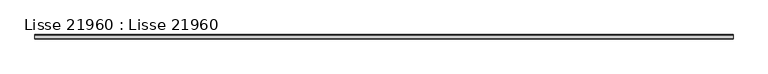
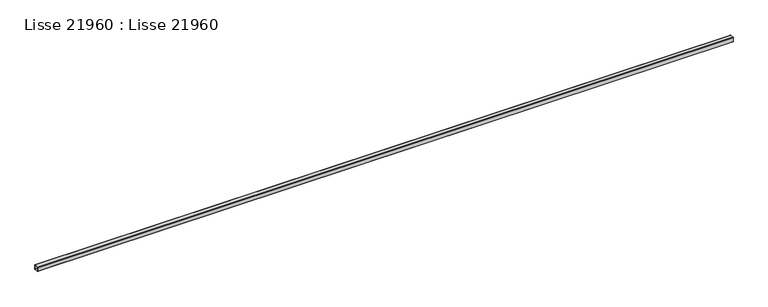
"""IFC4 building model written with IfcOpenShell, lengths in millimetres: beam geometry, Lisse 21960 : Lisse 21960."""

from ifc_helpers import new_model, si_unit, frame, origin, place, context, project, spatial, polyline, outline, extrude, source, transform, mapped, element, save


def lisse_21960_lisse_21960_dab4822d(model_context):
    return source(origin(), model_context, "Body", "SweptSolid", [
        extrude(outline(polyline([(-23513.5, 8550.0), (-23425.5, 8550.0), (-23422.5, 8549.1961524), (-23420.3038476, 8547.0), (-23419.5, 8544.0), (-23419.5, 8456.0), (-23420.3038476, 8453.0), (-23422.5, 8450.8038476), (-23425.5, 8450.0), (-23513.5, 8450.0), (-23516.5, 8450.8038476), (-23518.6961524, 8453.0), (-23519.5, 8456.0), (-23519.5, 8544.0), (-23518.6961524, 8547.0), (-23516.5, 8549.1961524), (-23513.5, 8550.0)]), holes=[polyline([(-23427.5, 8454.0), (-23425.5, 8454.5358984), (-23424.0358984, 8456.0), (-23423.5, 8458.0), (-23423.5, 8542.0), (-23424.0358984, 8544.0), (-23425.5, 8545.4641016), (-23427.5, 8546.0), (-23511.5, 8546.0), (-23513.5, 8545.4641016), (-23514.9641016, 8544.0), (-23515.5, 8542.0), (-23515.5, 8458.0), (-23514.9641016, 8456.0), (-23513.5, 8454.5358984), (-23511.5, 8454.0), (-23427.5, 8454.0)])]), frame((-40.0000001, 0.0, 0.0), z_axis=(1.0, 0.0, 0.0), x_axis=(0.0, 1.0, 0.0)), (0.0, 0.0, 1.0), 15430.0),
    ])


if __name__ == "__main__":
    model = new_model("IFC4")
    model_context = context("Model", 3, world=origin())
    ifc_project = project(units=[si_unit("LENGTHUNIT", "METRE", prefix="MILLI")], contexts=[model_context])
    site = spatial("IfcSite", under=ifc_project)
    building = spatial("IfcBuilding", under=site)
    placement = place(None, origin())
    lisse_21960_lisse_21960_shape = lisse_21960_lisse_21960_dab4822d(model_context)
    element("IfcBeam", 1, ObjectType="Lisse 21960 : Lisse 21960", at=placement, inside=building, context=model_context, shape_type="MappedRepresentation", body=[
        mapped(lisse_21960_lisse_21960_shape, transform((0.0, 0.0, 0.0), x_axis=(1.0, 0.0, 0.0), y_axis=(0.0, 1.0, 0.0), z_axis=(0.0, 0.0, 1.0))),
    ])
    save(model, "model.ifc")
